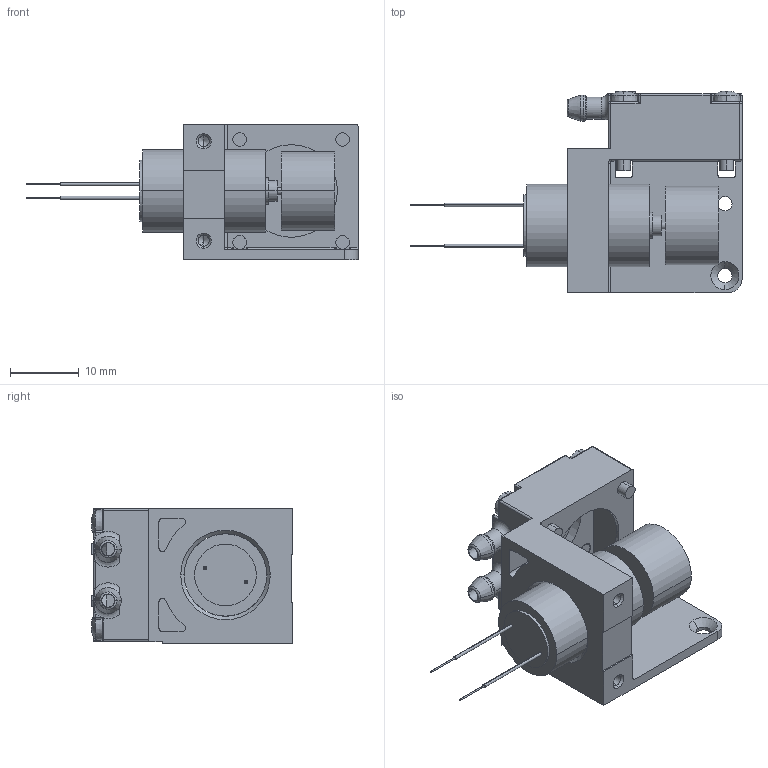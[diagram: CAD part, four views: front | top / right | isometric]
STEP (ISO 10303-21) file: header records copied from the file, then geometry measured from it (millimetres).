
FILE_DESCRIPTION((''),'2;1');
FILE_NAME('NMP09M-110210-PUMPE-NMP09M-ID04','2015-01-28T',('rsenra'),('KNF Neuberger GmbH'),'PRO/ENGINEER BY PARAMETRIC TECHNOLOGY CORPORATION, 2011310','PRO/ENGINEER BY PARAMETRIC TECHNOLOGY CORPORATION, 2011310','');
FILE_SCHEMA(('CONFIG_CONTROL_DESIGN'));
Length unit declared in the file: millimetre
Products named in the file (1): NMP09M-110210-PUMPE-NMP09M-ID04
Bounding box: 48.4 x 29.36 x 19.8 mm (x, y, z)
Volume: 5882.1 mm3; surface area: 6570.1 mm2
Topology: 2 solids, 2 shells, 411 faces, 987 edges, 591 vertices
Faces by surface type: cylinder 136, plane 104, extrusion 80, cone 38, torus 28, sphere 16, bspline 9
Entity records: 12964 total; most frequent: CARTESIAN_POINT 3521, ORIENTED_EDGE 1942, DIRECTION 1878, EDGE_CURVE 971, AXIS2_PLACEMENT_3D 709, VERTEX_POINT 667, VECTOR 460, EDGE_LOOP 452
